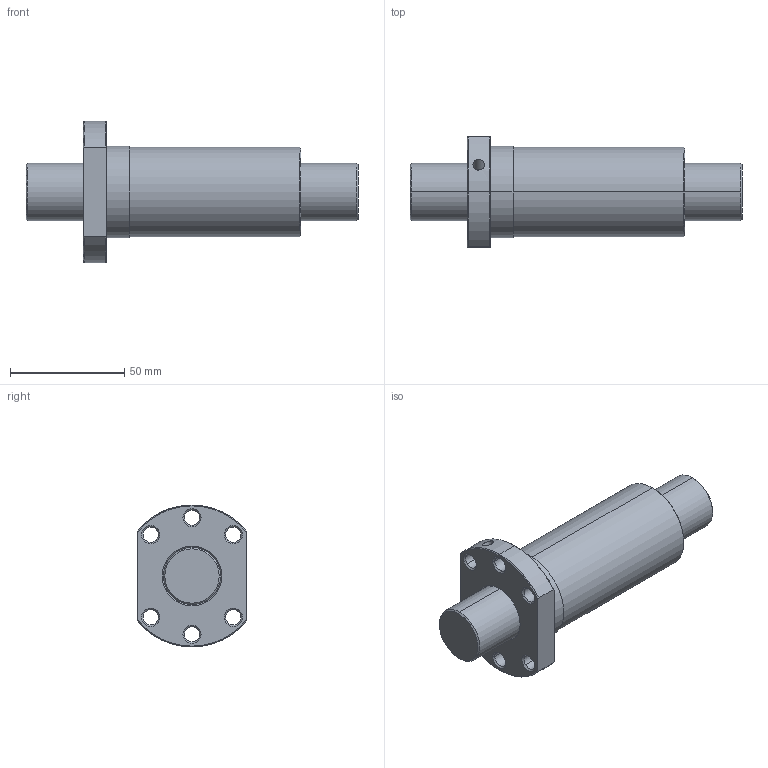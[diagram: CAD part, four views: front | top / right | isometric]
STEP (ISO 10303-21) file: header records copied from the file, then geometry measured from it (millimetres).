
FILE_DESCRIPTION(('no description'),'unknown implementation level');
FILE_NAME('R25_05T4_DDB_145_145_0_023_54.stp',' ',('HIWIN GmbH'),('CADClick - KiM GmbH - www.kimweb.de'),'unknown preprocess','ACIS','unknown authorization');
FILE_SCHEMA(('CONFIG_CONTROL_DESIGN'));
Length unit declared in the file: millimetre
Products named in the file (2): 1; 2
Bounding box: 145 x 48 x 62 mm (x, y, z)
Volume: 150730.3 mm3; surface area: 37200.9 mm2
Topology: 2 solids, 2 shells, 78 faces, 176 edges, 103 vertices
Faces by surface type: cone 44, cylinder 26, plane 8
Entity records: 2329 total; most frequent: CARTESIAN_POINT 440, DIRECTION 416, ORIENTED_EDGE 348, EDGE_CURVE 174, AXIS2_PLACEMENT_3D 172, VERTEX_POINT 103, EDGE_LOOP 95, CIRCLE 92
